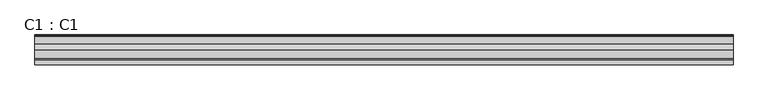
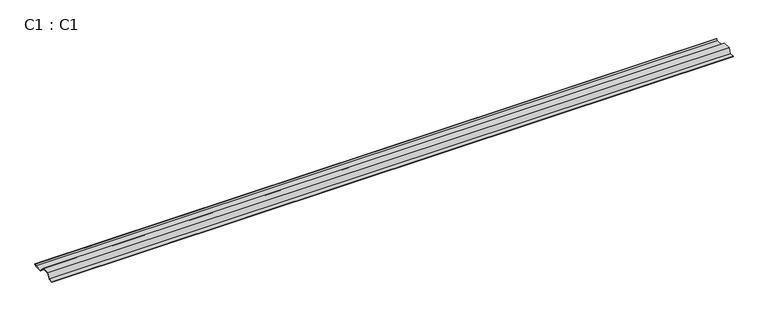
"""IFC4 building model written with IfcOpenShell, lengths in millimetres: proxy geometry, C1 : C1."""

import ifcopenshell
import ifcopenshell.guid

model = None  # the IFC model being written
_history = None  # IfcOwnerHistory: only IFC2X3 demands one
_inside = {}  # id of a spatial element -> (the spatial element, [elements in it])
_under = {}  # id of a project, library or spatial element -> (it, [spatial elements below it])
_declared = {}  # id of a project -> (the project, [libraries it declares])
_typed = {}  # id of a type object -> (the type object, [elements of that type])
_made_of = {}  # id of a material, layer set ... -> (it, [elements and type objects made of it])


def new_model(schema):
    """Start an empty IFC model of exactly this schema.

    Asked for "IFC4X3", IfcOpenShell would pick the latest addendum, in which some entities
    have other attributes; the version numbers below select the first issue.
    IFC2X3 requires an IfcOwnerHistory on every rooted entity: one is made here for all.
    """
    global model, _history
    if schema == "IFC4X3":
        model = ifcopenshell.file(schema_version=(4, 3, 0, 0))
    else:
        model = ifcopenshell.file(schema=schema)
    _inside.clear()
    _under.clear()
    _declared.clear()
    _typed.clear()
    _made_of.clear()
    _history = None
    if model.schema == "IFC2X3":
        org = make("IfcOrganization", Name="unknown")
        user = make(
            "IfcPersonAndOrganization",
            ThePerson=make("IfcPerson", FamilyName="unknown"),
            TheOrganization=org,
        )
        app = make(
            "IfcApplication",
            ApplicationDeveloper=org,
            Version="unknown",
            ApplicationFullName="unknown",
            ApplicationIdentifier="unknown",
        )
        _history = make(
            "IfcOwnerHistory",
            OwningUser=user,
            OwningApplication=app,
            ChangeAction="ADDED",
            CreationDate=0,
        )
    return model


def make(cls, **values):
    """One entity of the class cls with the attributes given. An attribute that is None is left unset."""
    return model.create_entity(
        cls, **{name: value for name, value in values.items() if value is not None}
    )


def rooted(cls, **values):
    """An entity with a GlobalId (a new one), such as an element, a storey or a relation."""
    return make(cls, GlobalId=ifcopenshell.guid.new(), OwnerHistory=_history, **values)


def si_unit(unit_type, name, prefix=None):
    """IfcSIUnit, for example si_unit("LENGTHUNIT", "METRE", prefix="MILLI")."""
    return make("IfcSIUnit", UnitType=unit_type, Prefix=prefix, Name=name)


def assignment(units):
    """IfcUnitAssignment: the units of a project."""
    return None if units is None else make("IfcUnitAssignment", Units=units)


def point(xyz):
    """IfcCartesianPoint."""
    return None if xyz is None else make("IfcCartesianPoint", Coordinates=xyz)


def direction(xyz):
    """IfcDirection."""
    return None if xyz is None else make("IfcDirection", DirectionRatios=xyz)


def frame(location, z_axis=None, x_axis=None):
    """IfcAxis2Placement3D, a coordinate frame: its origin and axes. An axis left out is left unset."""
    return make(
        "IfcAxis2Placement3D",
        Location=point(location),
        Axis=direction(z_axis),
        RefDirection=direction(x_axis),
    )


def origin():
    """The frame at (0, 0, 0) with its axes left unset."""
    return frame((0.0, 0.0, 0.0))


def place(relative_to, where):
    """IfcLocalPlacement: puts the frame where relative to a parent placement (None: the world)."""
    return make(
        "IfcLocalPlacement", PlacementRelTo=relative_to, RelativePlacement=where
    )


def context(
    kind, dimensions, precision=None, world=None, true_north=None, identifier=None
):
    """IfcGeometricRepresentationContext, for example the 3D "Model" context."""
    return make(
        "IfcGeometricRepresentationContext",
        ContextIdentifier=identifier,
        ContextType=kind,
        CoordinateSpaceDimension=dimensions,
        Precision=precision,
        WorldCoordinateSystem=world,
        TrueNorth=true_north,
    )


def project(units=None, contexts=None):
    """IfcProject with its units and contexts."""
    return rooted(
        "IfcProject",
        Name="project",
        RepresentationContexts=contexts,
        UnitsInContext=assignment(units),
    )


def spatial(cls, under=None, at=None, **own):
    """A site, building, storey or space (cls), placed at a placement, below another one or the project."""
    s = rooted(cls, ObjectPlacement=at, **own)
    if under is not None:
        _under.setdefault(under.id(), (under, []))[1].append(s)
    return s


def polyline(points):
    """IfcPolyline through the points."""
    return make("IfcPolyline", Points=[point(p) for p in points])


def outline(outer, holes=None, kind="AREA"):
    """IfcArbitraryClosedProfileDef: a profile drawn as a closed curve; with holes, ...WithVoids."""
    if holes is None:
        return make("IfcArbitraryClosedProfileDef", ProfileType=kind, OuterCurve=outer)
    return make(
        "IfcArbitraryProfileDefWithVoids",
        ProfileType=kind,
        OuterCurve=outer,
        InnerCurves=holes,
    )


def extrude(swept, where, along, depth):
    """IfcExtrudedAreaSolid: the profile swept, set in the frame where, extruded along a direction by depth."""
    return make(
        "IfcExtrudedAreaSolid",
        SweptArea=swept,
        Position=where,
        ExtrudedDirection=direction(along),
        Depth=depth,
    )


def shape(context_of_items, identifier, shape_type, items):
    """IfcShapeRepresentation: the items that make up one representation, for example the "Body"."""
    return make(
        "IfcShapeRepresentation",
        ContextOfItems=context_of_items,
        RepresentationIdentifier=identifier,
        RepresentationType=shape_type,
        Items=items,
    )


def source(mapping_origin, context_of_items, identifier, shape_type, items):
    """IfcRepresentationMap: a shape defined once, which mapped items show again and again."""
    return make(
        "IfcRepresentationMap",
        MappingOrigin=mapping_origin,
        MappedRepresentation=shape(context_of_items, identifier, shape_type, items),
    )


def transform(
    local_origin,
    x_axis=None,
    y_axis=None,
    z_axis=None,
    scale=None,
    scale2=None,
    scale3=None,
    uniform=True,
):
    """IfcCartesianTransformationOperator3D, or its non-uniform kind. x_axis, y_axis, z_axis: its Axis1, 2, 3."""
    if uniform:
        return make(
            "IfcCartesianTransformationOperator3D",
            Axis1=direction(x_axis),
            Axis2=direction(y_axis),
            LocalOrigin=point(local_origin),
            Scale=scale,
            Axis3=direction(z_axis),
        )
    return make(
        "IfcCartesianTransformationOperator3DnonUniform",
        Axis1=direction(x_axis),
        Axis2=direction(y_axis),
        LocalOrigin=point(local_origin),
        Scale=scale,
        Axis3=direction(z_axis),
        Scale2=scale2,
        Scale3=scale3,
    )


def mapped(mapping_source, mapping_target):
    """IfcMappedItem: shows the shape of a source again, moved by a transform."""
    return make(
        "IfcMappedItem", MappingSource=mapping_source, MappingTarget=mapping_target
    )


def made_of(thing, what):
    """Note that an element or type object is made of a material, layer set ...; save() writes the relation."""
    if what is not None:
        _made_of.setdefault(what.id(), (what, []))[1].append(thing)
    return thing


def element(
    cls,
    number,
    at=None,
    inside=None,
    cuts=None,
    type_object=None,
    material=None,
    context=None,
    identifier="Body",
    shape_type=None,
    held_by="IfcProductDefinitionShape",
    body=None,
    shapes=None,
    **own,
):
    """One element of the class cls, such as IfcWall. Its Tag is "e" and its number.

    at: its placement. inside: the storey or other place that contains it. cuts: it is an
    opening in that element (IfcRelVoidsElement). A single representation is given by context,
    identifier, shape_type and body (its items); several are given by shapes. held_by: the class
    of the entity that holds the representations. save() writes the other relations.
    """
    e = rooted(cls, Tag="e%d" % number, ObjectPlacement=at, **own)
    if body is not None:
        shapes = [shape(context, identifier, shape_type, body)]
    if shapes is not None:
        e.Representation = make(held_by, Representations=shapes)
    if inside is not None:
        _inside.setdefault(inside.id(), (inside, []))[1].append(e)
    if cuts is not None:
        rooted(
            "IfcRelVoidsElement", RelatingBuildingElement=cuts, RelatedOpeningElement=e
        )
    if type_object is not None:
        _typed.setdefault(type_object.id(), (type_object, []))[1].append(e)
    return made_of(e, material)


def aggregate(whole, parts):
    """IfcRelAggregates: a whole, such as a stair, and the parts it consists of."""
    return rooted("IfcRelAggregates", RelatingObject=whole, RelatedObjects=parts)


def save(model, path):
    """Write the relations noted so far, then the file.

    IfcRelAggregates (storeys below a building ...), IfcRelContainedInSpatialStructure (elements
    in a storey), IfcRelDefinesByType, IfcRelAssociatesMaterial and IfcRelDeclares: one each for
    every whole, place, type object, material and project.
    """
    for whole, parts in _under.values():
        aggregate(whole, parts)
    for where, things in _inside.values():
        rooted(
            "IfcRelContainedInSpatialStructure",
            RelatedElements=things,
            RelatingStructure=where,
        )
    for kind, things in _typed.values():
        rooted("IfcRelDefinesByType", RelatedObjects=things, RelatingType=kind)
    for what, things in _made_of.values():
        rooted("IfcRelAssociatesMaterial", RelatedObjects=things, RelatingMaterial=what)
    for by, libraries in _declared.values():
        rooted("IfcRelDeclares", RelatingContext=by, RelatedDefinitions=libraries)
    model.write(path)


def c1_c1_5f5cac99(model_context):
    return source(origin(), model_context, "Body", "SweptSolid", [
        extrude(outline(polyline([(-24.8328427, 1.2e-06), (-37.8328427, 13.0000012), (-57.9948698, 13.0000012), (-63.7828427, 1.2e-06), (-76.4828427, 1.2e-06), (-76.4828427, 1.4000012), (-64.6920133, 1.4000012), (-58.9040404, 14.4000012), (-37.170101, 14.4000012), (-24.170101, 1.4000012), (-4.979899, 1.4000012), (-1.979899, 4.4000012), (0.0, 4.4000012), (-4.4, 1.2e-06), (-24.8328427, 1.2e-06)])), frame((1.0, 0.0, 0.0), z_axis=(1.0, 0.0, 0.0), x_axis=(0.0, 1.0, 0.0)), (0.0, 0.0, 1.0), 1778.0),
    ])


if __name__ == "__main__":
    model = new_model("IFC4")
    model_context = context("Model", 3, world=origin())
    ifc_project = project(units=[si_unit("LENGTHUNIT", "METRE", prefix="MILLI")], contexts=[model_context])
    site = spatial("IfcSite", under=ifc_project)
    building = spatial("IfcBuilding", under=site)
    placement = place(None, origin())
    c1_c1_shape = c1_c1_5f5cac99(model_context)
    element("IfcBuildingElementProxy", 1, Name="C1 : C1", ObjectType="C1 : C1", at=placement, inside=building, context=model_context, shape_type="MappedRepresentation", body=[
        mapped(c1_c1_shape, transform((0.0, 0.0, 0.0), x_axis=(1.0, 0.0, 0.0), y_axis=(0.0, 1.0, 0.0), z_axis=(0.0, 0.0, 1.0))),
    ])
    save(model, "model.ifc")
